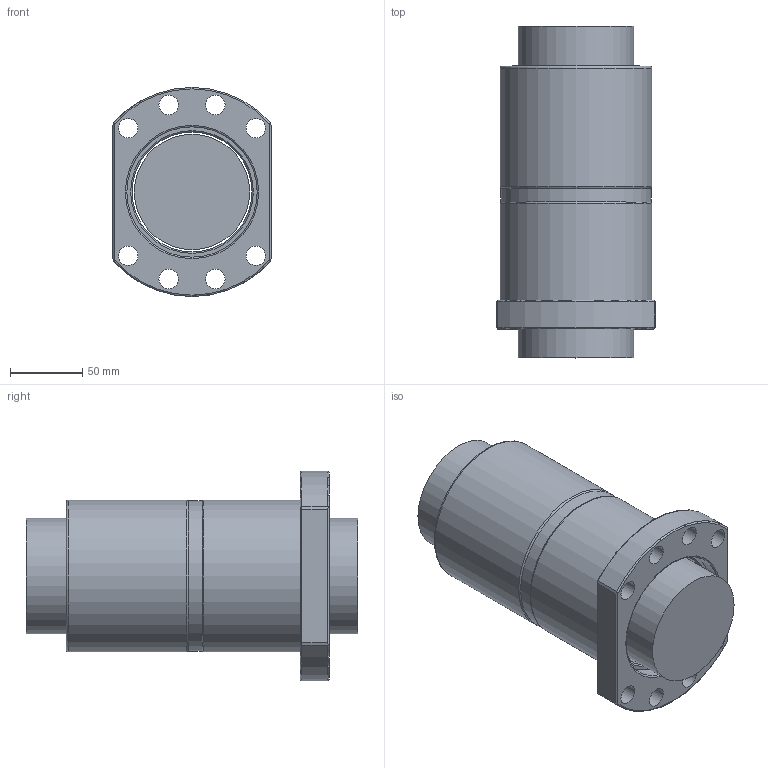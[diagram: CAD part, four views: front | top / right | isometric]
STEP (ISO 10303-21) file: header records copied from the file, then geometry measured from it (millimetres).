
FILE_DESCRIPTION(/* description */ (''),/* implementation_level */ '2;1');
FILE_NAME(/* name */ '8010.prt.step',/* time_stamp */ '2008-12-05T09:28:26+08:00',/* author */ (''),/* organization */ (''),/* preprocessor_version */ 'ST-DEVELOPER v11',/* originating_system */ 'SIEMENS UGS NX 6.0',/* authorisation */ '');
FILE_SCHEMA (('AUTOMOTIVE_DESIGN { 1 0 10303 214 1 1 1 1 }'));
Length unit declared in the file: millimetre
Products named in the file (1): 8010
Bounding box: 110 x 230 x 145 mm (x, y, z)
Volume: 1804696.8 mm3; surface area: 210743.4 mm2
Topology: 4 solids, 4 shells, 59 faces, 134 edges, 88 vertices
Faces by surface type: plane 23, cylinder 21, torus 11, cone 4
Full cylindrical faces by diameter (mm): 13.5 x8, 79.95 x1, 83 x2, 84 x1, 90.3 x4, 104 x1, 105 x2
Entity records: 1753 total; most frequent: CARTESIAN_POINT 478, DIRECTION 258, ORIENTED_EDGE 194, AXIS2_PLACEMENT_3D 117, EDGE_LOOP 116, FACE_BOUND 98, EDGE_CURVE 97, VERTEX_POINT 81
